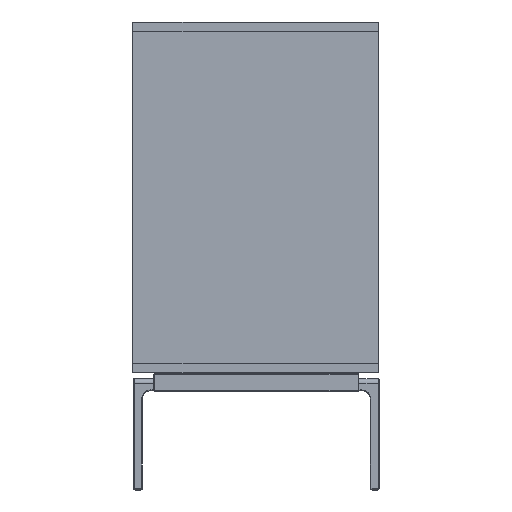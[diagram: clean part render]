
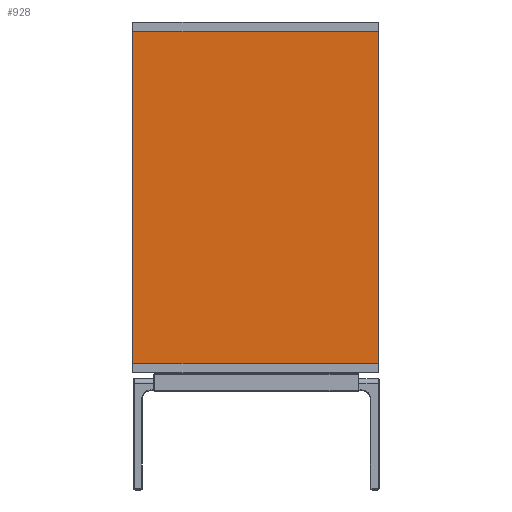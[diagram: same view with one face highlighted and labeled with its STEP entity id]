
A CAD part, left-side view. The second image highlights one B-rep face of the part: STEP entity #928.
In plain terms, the highlighted planar face has unit normal (-1, 0, 0).
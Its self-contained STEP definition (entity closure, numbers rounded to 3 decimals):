
#928=ADVANCED_FACE('',(#1422),#6914,.T.);
#1422=FACE_OUTER_BOUND('',#1924,.T.);
#1924=EDGE_LOOP('',(#3575,#3576,#3577,#3578));
#3575=ORIENTED_EDGE('',*,*,#4968,.T.);
#3576=ORIENTED_EDGE('',*,*,#4969,.T.);
#3577=ORIENTED_EDGE('',*,*,#4970,.F.);
#3578=ORIENTED_EDGE('',*,*,#4965,.F.);
#4965=EDGE_CURVE('',#6522,#6523,#5739,.T.);
#4968=EDGE_CURVE('',#6522,#6525,#5742,.T.);
#4969=EDGE_CURVE('',#6525,#6526,#5743,.T.);
#4970=EDGE_CURVE('',#6523,#6526,#5744,.T.);
#5739=B_SPLINE_CURVE_WITH_KNOTS('',1,(#12240,#12241),.UNSPECIFIED.,.F.,
 .F.,(2,2),(0.,368.),.UNSPECIFIED.);
#5742=B_SPLINE_CURVE_WITH_KNOTS('',1,(#12246,#12247),.UNSPECIFIED.,.F.,
 .F.,(2,2),(16.,436.),.UNSPECIFIED.);
#5743=B_SPLINE_CURVE_WITH_KNOTS('',1,(#12248,#12249),.UNSPECIFIED.,.F.,
 .F.,(2,2),(0.,368.),.UNSPECIFIED.);
#5744=B_SPLINE_CURVE_WITH_KNOTS('',1,(#12250,#12251),.UNSPECIFIED.,.F.,
 .F.,(2,2),(16.,436.),.UNSPECIFIED.);
#6522=VERTEX_POINT('',#12231);
#6523=VERTEX_POINT('',#12232);
#6525=VERTEX_POINT('',#12234);
#6526=VERTEX_POINT('',#12235);
#6914=PLANE('',#7444);
#7444=AXIS2_PLACEMENT_3D('',#12225,#7890,$);
#7890=DIRECTION('',(-1.,0.,0.));
#12225=CARTESIAN_POINT('',(-900.,211.,216.));
#12231=CARTESIAN_POINT('',(-900.,211.,216.));
#12232=CARTESIAN_POINT('',(-900.,211.,784.));
#12234=CARTESIAN_POINT('',(-900.,-209.,216.));
#12235=CARTESIAN_POINT('',(-900.,-209.,784.));
#12240=CARTESIAN_POINT('',(-900.,211.,216.));
#12241=CARTESIAN_POINT('',(-900.,211.,784.));
#12246=CARTESIAN_POINT('',(-900.,211.,216.));
#12247=CARTESIAN_POINT('',(-900.,-209.,216.));
#12248=CARTESIAN_POINT('',(-900.,-209.,216.));
#12249=CARTESIAN_POINT('',(-900.,-209.,784.));
#12250=CARTESIAN_POINT('',(-900.,211.,784.));
#12251=CARTESIAN_POINT('',(-900.,-209.,784.));
